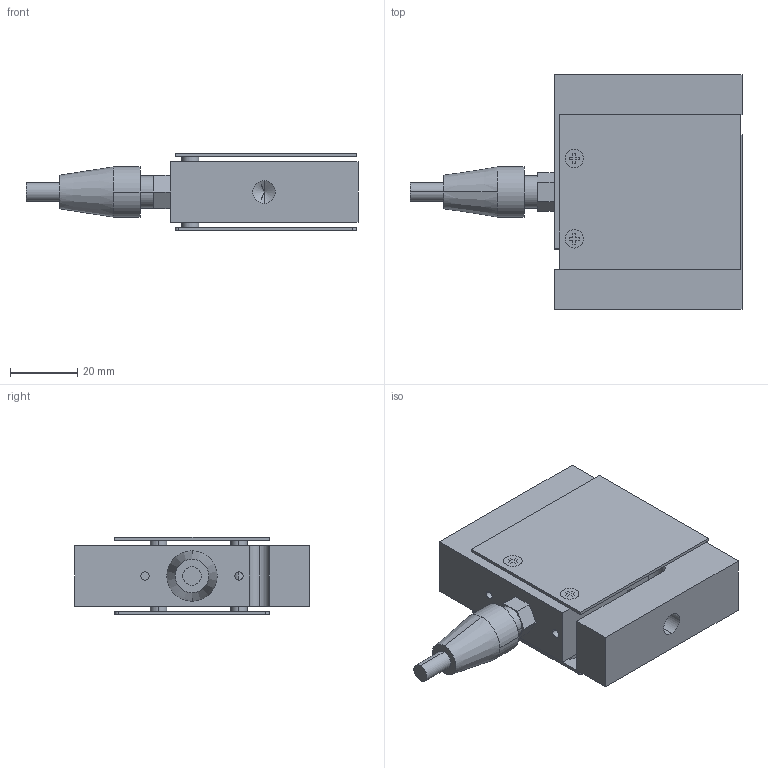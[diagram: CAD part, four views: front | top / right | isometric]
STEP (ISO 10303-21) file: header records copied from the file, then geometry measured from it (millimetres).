
FILE_DESCRIPTION (( 'STEP AP214' ), '1' );
FILE_NAME ('3D_KM1401.STEP', '2014-07-22T05:59:45', ( '' ), ( '' ), 'SwSTEP 2.0', 'SolidWorks 2012', '' );
FILE_SCHEMA (( 'AUTOMOTIVE_DESIGN' ));
Length unit declared in the file: metre
Products named in the file (1): 3D_KM1401
Bounding box: 99 x 70 x 23 mm (x, y, z)
Volume: 70176.2 mm3; surface area: 26532.3 mm2
Topology: 1 solids, 1 shells, 85 faces, 247 edges, 180 vertices
Faces by surface type: plane 43, cylinder 36, cone 6
Entity records: 3065 total; most frequent: CARTESIAN_POINT 555, DIRECTION 489, ORIENTED_EDGE 486, EDGE_CURVE 243, VERTEX_POINT 180, AXIS2_PLACEMENT_3D 164, LINE 161, VECTOR 161
